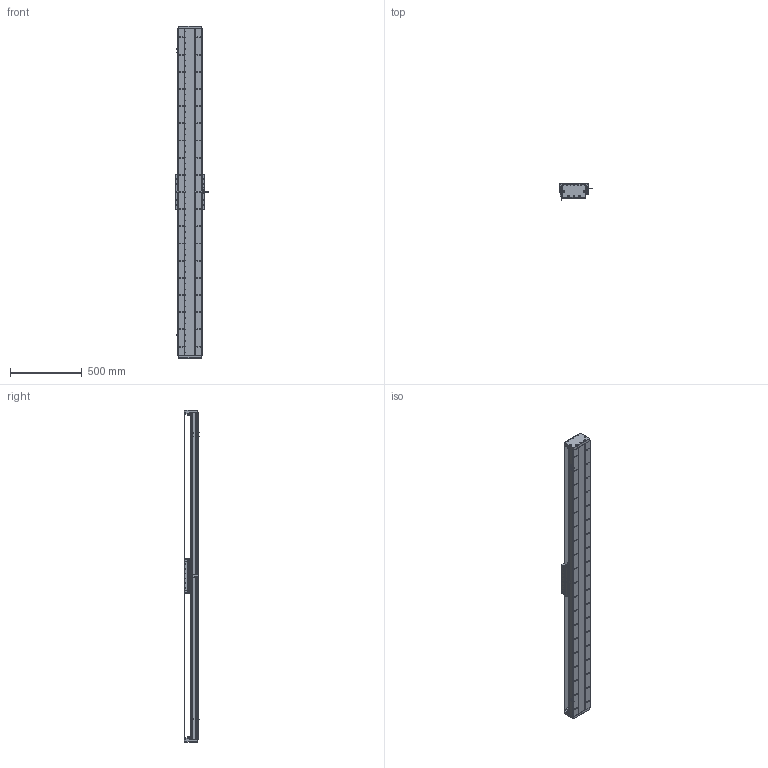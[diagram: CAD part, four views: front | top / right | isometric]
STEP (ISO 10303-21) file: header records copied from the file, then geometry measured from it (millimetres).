
FILE_DESCRIPTION (( 'STEP AP203' ), '1' );
FILE_NAME ('DA-C165-C3-T1980-C010-0.2 直线电机.STEP', '2023-06-13T08:50:24', ( '微软用户' ), ( '微软中国' ), 'SwSTEP 2.0', 'SolidWorks 2019', '' );
FILE_SCHEMA (( 'CONFIG_CONTROL_DESIGN' ));
Length unit declared in the file: millimetre
Products named in the file (18): 珨极趙賑雄怢啣C3-wf; 复件 DA165-GD-DG-H-00 端盖^复件 CU165钢带组件_DA-C165-C3-T-C010-0.2-N 直线电机; IU-CU165-L 菁釱絳寢; 复件 DA95-HXJ-00 缓冲橡胶^DA-C165-C3-T-C010-0.2-N 直线电机; 复件 DA165-GDYK-00 钢带压块^复件 CU165钢带组件_DA-C165-C3-T-C010-0.2-N 直线电机; 葩璃 CKM03-W075-C1C2-TP-3.0^DA-C165-C3-T-C010-0.2-N 眻盄萇儂; 复件 六角薄螺母 M3^DA-C165-C3-T-C010-0.2-N 直线电机_GB_FASTENER_NUT_STNAB M3-C; 葩璃 PM-T45^DA-C165-C3-T-C010-0.2-N 眻盄萇儂; 复件 DMA-010-0.2 读数头^DA-C165-C3-T-C010-0.2-N 直线电机; 复件 DA165-GYP-00 光电感应片^DA-C165-C3-T-C010-0.2-N 直线电机; 复件 CU165 底座^IU-CU165-L 底座导轨_L2280; 复件 DA165-GDLK-00 钢带拉块^复件 CU165钢带组件_DA-C165-C3-T-C010-0.2-N 直线电机; 葩璃 DA95-GT-T-00^IU-CU165-L 菁釱絳寢_T; 复件 CU165钢带组件^DA-C165-C3-T-C010-0.2-N 直线电机; 复件 DA165-GD-1860-002-00 钢带盖板^复件 CU165钢带组件_DA-C165-C3-T-C010-0.2-N 直线电机; DA-C165-C3-T1980-C010-0.2 眻盄萇儂; 葩璃 CKM01-W075-TRL^DA-C165-C3-T-C010-0.2-N 眻盄萇儂; 复件 XD-U-02L 磁栅尺^DA-C165-C3-T-C010-0.2-N 直线电机_T
Assembly tree (35 placements, depth 3):
  DA-C165-C3-T1980-C010-0.2 眻盄萇儂
    IU-CU165-L 菁釱絳寢
      复件 CU165 底座^IU-CU165-L 底座导轨_L2280
      葩璃 DA95-GT-T-00^IU-CU165-L 菁釱絳寢_T  x4
    复件 XD-U-02L 磁栅尺^DA-C165-C3-T-C010-0.2-N 直线电机_T
    葩璃 PM-T45^DA-C165-C3-T-C010-0.2-N 眻盄萇儂  x3
    葩璃 CKM01-W075-TRL^DA-C165-C3-T-C010-0.2-N 眻盄萇儂
    复件 CU165钢带组件^DA-C165-C3-T-C010-0.2-N 直线电机
      复件 DA165-GD-DG-H-00 端盖^复件 CU165钢带组件_DA-C165-C3-T-C010-0.2-N 直线电机  x2
      复件 DA165-GDYK-00 钢带压块^复件 CU165钢带组件_DA-C165-C3-T-C010-0.2-N 直线电机  x2
      复件 DA165-GD-1860-002-00 钢带盖板^复件 CU165钢带组件_DA-C165-C3-T-C010-0.2-N 直线电机
      复件 DA165-GDLK-00 钢带拉块^复件 CU165钢带组件_DA-C165-C3-T-C010-0.2-N 直线电机  x2
    复件 DA95-HXJ-00 缓冲橡胶^DA-C165-C3-T-C010-0.2-N 直线电机  x4
    复件 DA165-GYP-00 光电感应片^DA-C165-C3-T-C010-0.2-N 直线电机
    复件 DMA-010-0.2 读数头^DA-C165-C3-T-C010-0.2-N 直线电机
    葩璃 CKM03-W075-C1C2-TP-3.0^DA-C165-C3-T-C010-0.2-N 眻盄萇儂
    复件 六角薄螺母 M3^DA-C165-C3-T-C010-0.2-N 直线电机_GB_FASTENER_NUT_STNAB M3-C  x8
    珨极趙賑雄怢啣C3-wf
Bounding box: 233 x 111.45 x 2320 mm (x, y, z)
Volume: 13685067.7 mm3; surface area: 4012814.7 mm2
Topology: 72 solids, 122 shells, 4198 faces, 11853 edges, 7462 vertices
Faces by surface type: cylinder 2368, plane 1204, cone 576, torus 46, sphere 4
Entity records: 135311 total; most frequent: CARTESIAN_POINT 35739, ORIENTED_EDGE 20458, DIRECTION 20257, EDGE_CURVE 10229, AXIS2_PLACEMENT_3D 7770, VERTEX_POINT 6650, EDGE_LOOP 4805, LINE 4717
